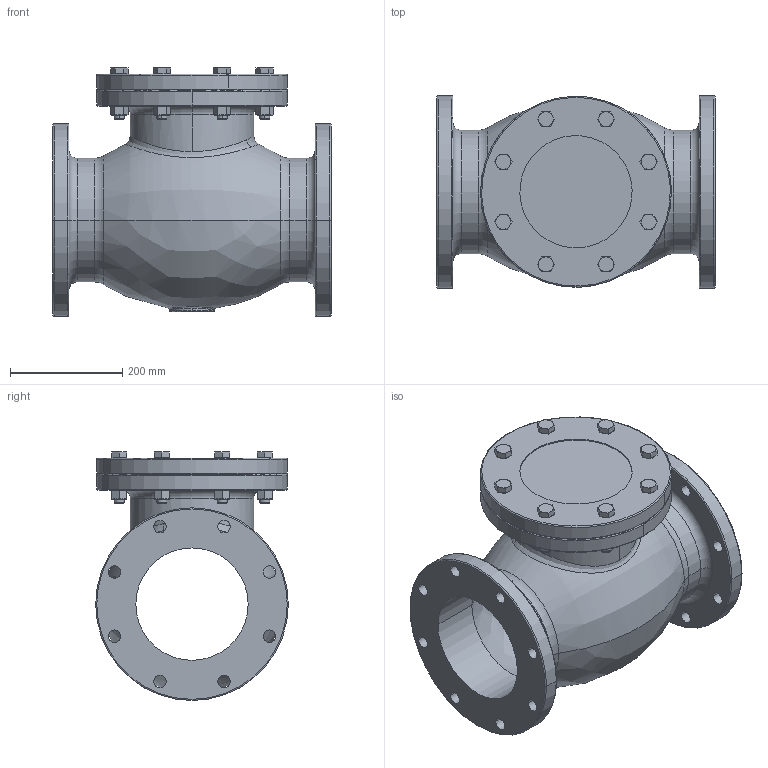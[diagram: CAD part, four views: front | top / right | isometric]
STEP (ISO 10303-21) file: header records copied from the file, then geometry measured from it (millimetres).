
FILE_DESCRIPTION(('Open CASCADE Model'),'2;1');
FILE_NAME('Open CASCADE Shape Model','2022-03-10T07:41:02',('Author'),( 'Open CASCADE'),'Open CASCADE STEP processor 7.3','Open CASCADE 7.3' ,'Unknown');
FILE_SCHEMA(('AUTOMOTIVE_DESIGN { 1 0 10303 214 1 1 1 1 }'));
Length unit declared in the file: millimetre
Products named in the file (19): Open CASCADE STEP translator 7.3 1; Open CASCADE STEP translator 7.3 1.1; Open CASCADE STEP translator 7.3 1.2; Open CASCADE STEP translator 7.3 1.3; Open CASCADE STEP translator 7.3 1.4; Open CASCADE STEP translator 7.3 1.5; Open CASCADE STEP translator 7.3 1.6; Open CASCADE STEP translator 7.3 1.7; Open CASCADE STEP translator 7.3 1.8; Open CASCADE STEP translator 7.3 1.9; Open CASCADE STEP translator 7.3 1.10; Open CASCADE STEP translator 7.3 1.11; Open CASCADE STEP translator 7.3 1.12; Open CASCADE STEP translator 7.3 1.13; Open CASCADE STEP translator 7.3 1.14; Open CASCADE STEP translator 7.3 1.15; Open CASCADE STEP translator 7.3 1.16; Open CASCADE STEP translator 7.3 1.17; Open CASCADE STEP translator 7.3 1.18
Assembly tree (18 placements, depth 2):
  Open CASCADE STEP translator 7.3 1
    Open CASCADE STEP translator 7.3 1.1
    Open CASCADE STEP translator 7.3 1.2
    Open CASCADE STEP translator 7.3 1.3
    Open CASCADE STEP translator 7.3 1.4
    Open CASCADE STEP translator 7.3 1.5
    Open CASCADE STEP translator 7.3 1.6
    Open CASCADE STEP translator 7.3 1.7
    Open CASCADE STEP translator 7.3 1.8
    Open CASCADE STEP translator 7.3 1.9
    Open CASCADE STEP translator 7.3 1.10
    Open CASCADE STEP translator 7.3 1.11
    Open CASCADE STEP translator 7.3 1.12
    Open CASCADE STEP translator 7.3 1.13
    Open CASCADE STEP translator 7.3 1.14
    Open CASCADE STEP translator 7.3 1.15
    Open CASCADE STEP translator 7.3 1.16
    Open CASCADE STEP translator 7.3 1.17
    Open CASCADE STEP translator 7.3 1.18
Bounding box: 495.3 x 343 x 443.21 mm (x, y, z)
Volume: 11696783.2 mm3; surface area: 1582151.7 mm2
Topology: 18 solids, 18 shells, 501 faces, 1186 edges, 736 vertices
Faces by surface type: plane 195, cone 144, cylinder 124, torus 28, revolution 6, bspline 4
Entity records: 45714 total; most frequent: CARTESIAN_POINT 22586, DIRECTION 4024, ORIENTED_EDGE 2372, PCURVE 2372, DEFINITIONAL_REPRESENTATION 2372, LINE 1826, VECTOR 1826, EDGE_CURVE 1186
